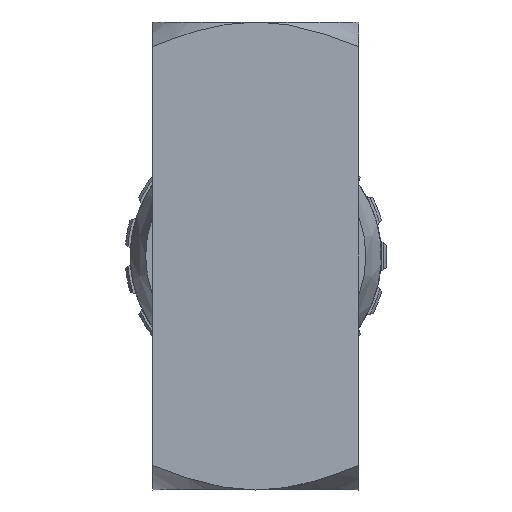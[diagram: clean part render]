
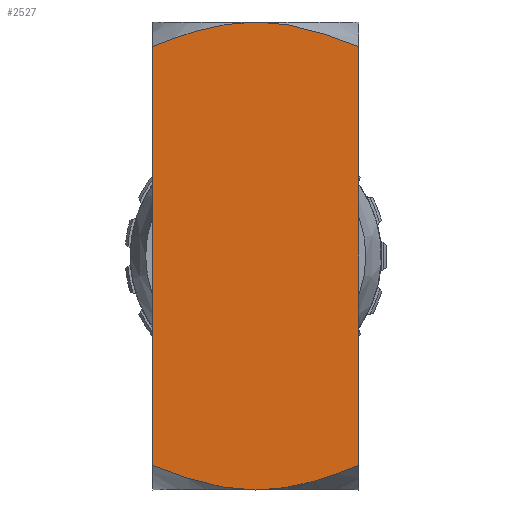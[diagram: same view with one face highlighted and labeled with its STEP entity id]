
A CAD part, front view. The second image highlights one B-rep face of the part: STEP entity #2527.
In plain terms, the highlighted planar face has unit normal (0, -1, 0).
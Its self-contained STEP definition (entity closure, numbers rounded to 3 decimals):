
#1340 = CARTESIAN_POINT ( 'NONE',  ( 13.799, -15., 3.097 ) ) ;
#1351 = DIRECTION ( 'NONE',  ( 0., 1., 0. ) ) ;
#1474 = CARTESIAN_POINT ( 'NONE',  ( 0., -15., 0. ) ) ;
#1817 = EDGE_LOOP ( 'NONE', ( #20128, #15772, #28044, #14299, #32090, #10074 ) ) ;
#1839 = CARTESIAN_POINT ( 'NONE',  ( 15., -15., 64.413 ) ) ;
#2518 = CARTESIAN_POINT ( 'NONE',  ( -12.591, -15., 65.367 ) ) ;
#2527 = ADVANCED_FACE ( 'NONE', ( #20438 ), #5757, .F. ) ;
#2581 = CARTESIAN_POINT ( 'NONE',  ( 15., -15., 64.413 ) ) ;
#5361 = CARTESIAN_POINT ( 'NONE',  ( -8.925, -15., 66.603 ) ) ;
#5518 = DIRECTION ( 'NONE',  ( 0., 0., -1. ) ) ;
#5757 = PLANE ( 'NONE',  #22156 ) ;
#6067 = DIRECTION ( 'NONE',  ( 0., 0., 1. ) ) ;
#7068 = CARTESIAN_POINT ( 'NONE',  ( 12.591, -15., 2.633 ) ) ;
#7359 = CARTESIAN_POINT ( 'NONE',  ( -15., -15., 68. ) ) ;
#7420 = CARTESIAN_POINT ( 'NONE',  ( 2.571, -15., 67.903 ) ) ;
#8076 = VERTEX_POINT ( 'NONE', #10826 ) ;
#8200 = CARTESIAN_POINT ( 'NONE',  ( -5.172, -15., 67.528 ) ) ;
#8470 = VECTOR ( 'NONE', #31514, 1000. ) ;
#8916 = EDGE_CURVE ( 'NONE', #9305, #10951, #23697, .T. ) ;
#9242 = EDGE_CURVE ( 'NONE', #8076, #10951, #9744, .T. ) ;
#9305 = VERTEX_POINT ( 'NONE', #18022 ) ;
#9744 = B_SPLINE_CURVE_WITH_KNOTS ( 'NONE', 3,
 ( #19516, #19571, #19482, #19349, #19343, #19316, #19231, #19118, #19044, #19040, #18999, #18992 ),
 .UNSPECIFIED., .F., .F.,
 ( 4, 2, 2, 2, 2, 4 ),
 ( 0.015, 0.019, 0.023, 0.025, 0.027, 0.031 ),
 .UNSPECIFIED. ) ;
#9987 = CARTESIAN_POINT ( 'NONE',  ( 8.925, -15., 1.397 ) ) ;
#10074 = ORIENTED_EDGE ( 'NONE', *, *, #9242, .F. ) ;
#10363 = CARTESIAN_POINT ( 'NONE',  ( 6.375, -15., 67.273 ) ) ;
#10826 = CARTESIAN_POINT ( 'NONE',  ( 0., -15., 0. ) ) ;
#10951 = VERTEX_POINT ( 'NONE', #13397 ) ;
#11018 = CARTESIAN_POINT ( 'NONE',  ( -13.799, -15., 64.903 ) ) ;
#11144 = CARTESIAN_POINT ( 'NONE',  ( -2.595, -15., 67.879 ) ) ;
#12934 = CARTESIAN_POINT ( 'NONE',  ( 5.172, -15., 0.472 ) ) ;
#13263 = CARTESIAN_POINT ( 'NONE',  ( 8.884, -15., 66.6 ) ) ;
#13397 = CARTESIAN_POINT ( 'NONE',  ( -15., -15., 3.587 ) ) ;
#14044 = CARTESIAN_POINT ( 'NONE',  ( -0.645, -15., 68. ) ) ;
#14269 = CARTESIAN_POINT ( 'NONE',  ( 15., -15., 3.587 ) ) ;
#14299 = ORIENTED_EDGE ( 'NONE', *, *, #21204, .F. ) ;
#15772 = ORIENTED_EDGE ( 'NONE', *, *, #28964, .F. ) ;
#15776 = CARTESIAN_POINT ( 'NONE',  ( 2.595, -15., 0.121 ) ) ;
#16060 = VERTEX_POINT ( 'NONE', #23126 ) ;
#16162 = CARTESIAN_POINT ( 'NONE',  ( 10.743, -15., 66.012 ) ) ;
#18022 = CARTESIAN_POINT ( 'NONE',  ( -15., -15., 64.413 ) ) ;
#18423 = EDGE_CURVE ( 'NONE', #16060, #37013, #23351, .T. ) ;
#18693 = CARTESIAN_POINT ( 'NONE',  ( 0.645, -15., 0. ) ) ;
#18909 = CARTESIAN_POINT ( 'NONE',  ( 0., -15., 68. ) ) ;
#18992 = CARTESIAN_POINT ( 'NONE',  ( -15., -15., 3.587 ) ) ;
#18999 = CARTESIAN_POINT ( 'NONE',  ( -13.796, -15., 3.096 ) ) ;
#19033 = CARTESIAN_POINT ( 'NONE',  ( 13.796, -15., 64.904 ) ) ;
#19040 = CARTESIAN_POINT ( 'NONE',  ( -12.583, -15., 2.629 ) ) ;
#19044 = CARTESIAN_POINT ( 'NONE',  ( -10.743, -15., 1.988 ) ) ;
#19118 = CARTESIAN_POINT ( 'NONE',  ( -10.126, -15., 1.784 ) ) ;
#19231 = CARTESIAN_POINT ( 'NONE',  ( -8.884, -15., 1.4 ) ) ;
#19316 = CARTESIAN_POINT ( 'NONE',  ( -8.258, -15., 1.22 ) ) ;
#19343 = CARTESIAN_POINT ( 'NONE',  ( -6.375, -15., 0.727 ) ) ;
#19349 = CARTESIAN_POINT ( 'NONE',  ( -5.113, -15., 0.462 ) ) ;
#19482 = CARTESIAN_POINT ( 'NONE',  ( -2.571, -15., 0.097 ) ) ;
#19516 = CARTESIAN_POINT ( 'NONE',  ( 0., -15., 0. ) ) ;
#19571 = CARTESIAN_POINT ( 'NONE',  ( -1.291, -15., 0. ) ) ;
#20128 = ORIENTED_EDGE ( 'NONE', *, *, #31780, .F. ) ;
#20438 = FACE_OUTER_BOUND ( 'NONE', #1817, .T. ) ;
#21204 = EDGE_CURVE ( 'NONE', #9305, #16060, #23648, .T. ) ;
#21383 = CARTESIAN_POINT ( 'NONE',  ( 15., -15., 3.587 ) ) ;
#22156 = AXIS2_PLACEMENT_3D ( 'NONE', #7359, #1351, #6067 ) ;
#22481 = CARTESIAN_POINT ( 'NONE',  ( -10.154, -15., 66.217 ) ) ;
#23126 = CARTESIAN_POINT ( 'NONE',  ( 0., -15., 68. ) ) ;
#23351 = B_SPLINE_CURVE_WITH_KNOTS ( 'NONE', 3,
 ( #18909, #35978, #7420, #27377, #10363, #30313, #13263, #33206, #16162, #36103, #19033, #1839 ),
 .UNSPECIFIED., .F., .F.,
 ( 4, 2, 2, 2, 2, 4 ),
 ( 0.015, 0.019, 0.023, 0.025, 0.027, 0.031 ),
 .UNSPECIFIED. ) ;
#23648 = B_SPLINE_CURVE_WITH_KNOTS ( 'NONE', 3,
 ( #30996, #11018, #2518, #22481, #5361, #25332, #8200, #28186, #11144, #31125, #14044, #33963 ),
 .UNSPECIFIED., .F., .F.,
 ( 4, 2, 2, 2, 2, 4 ),
 ( 0., 0.004, 0.008, 0.012, 0.014, 0.015 ),
 .UNSPECIFIED. ) ;
#23697 = LINE ( 'NONE', #33221, #8470 ) ;
#25332 = CARTESIAN_POINT ( 'NONE',  ( -6.434, -15., 67.259 ) ) ;
#25672 = B_SPLINE_CURVE_WITH_KNOTS ( 'NONE', 3,
 ( #21383, #1340, #7068, #27025, #9987, #29963, #12934, #32867, #15776, #35758, #18693, #1474 ),
 .UNSPECIFIED., .F., .F.,
 ( 4, 2, 2, 2, 2, 4 ),
 ( 0., 0.004, 0.008, 0.012, 0.014, 0.015 ),
 .UNSPECIFIED. ) ;
#27025 = CARTESIAN_POINT ( 'NONE',  ( 10.154, -15., 1.783 ) ) ;
#27377 = CARTESIAN_POINT ( 'NONE',  ( 5.113, -15., 67.538 ) ) ;
#28044 = ORIENTED_EDGE ( 'NONE', *, *, #18423, .F. ) ;
#28186 = CARTESIAN_POINT ( 'NONE',  ( -3.245, -15., 67.807 ) ) ;
#28964 = EDGE_CURVE ( 'NONE', #37013, #32785, #31459, .T. ) ;
#29963 = CARTESIAN_POINT ( 'NONE',  ( 6.434, -15., 0.741 ) ) ;
#30313 = CARTESIAN_POINT ( 'NONE',  ( 8.258, -15., 66.78 ) ) ;
#30540 = VECTOR ( 'NONE', #5518, 1000. ) ;
#30996 = CARTESIAN_POINT ( 'NONE',  ( -15., -15., 64.413 ) ) ;
#31125 = CARTESIAN_POINT ( 'NONE',  ( -1.294, -15., 67.976 ) ) ;
#31459 = LINE ( 'NONE', #33858, #30540 ) ;
#31514 = DIRECTION ( 'NONE',  ( 0., 0., -1. ) ) ;
#31780 = EDGE_CURVE ( 'NONE', #32785, #8076, #25672, .T. ) ;
#32090 = ORIENTED_EDGE ( 'NONE', *, *, #8916, .T. ) ;
#32785 = VERTEX_POINT ( 'NONE', #14269 ) ;
#32867 = CARTESIAN_POINT ( 'NONE',  ( 3.245, -15., 0.193 ) ) ;
#33206 = CARTESIAN_POINT ( 'NONE',  ( 10.126, -15., 66.216 ) ) ;
#33221 = CARTESIAN_POINT ( 'NONE',  ( -15., -15., 68. ) ) ;
#33858 = CARTESIAN_POINT ( 'NONE',  ( 15., -15., 68. ) ) ;
#33963 = CARTESIAN_POINT ( 'NONE',  ( 0., -15., 68. ) ) ;
#35758 = CARTESIAN_POINT ( 'NONE',  ( 1.294, -15., 0.024 ) ) ;
#35978 = CARTESIAN_POINT ( 'NONE',  ( 1.291, -15., 68. ) ) ;
#36103 = CARTESIAN_POINT ( 'NONE',  ( 12.583, -15., 65.371 ) ) ;
#37013 = VERTEX_POINT ( 'NONE', #2581 ) ;
